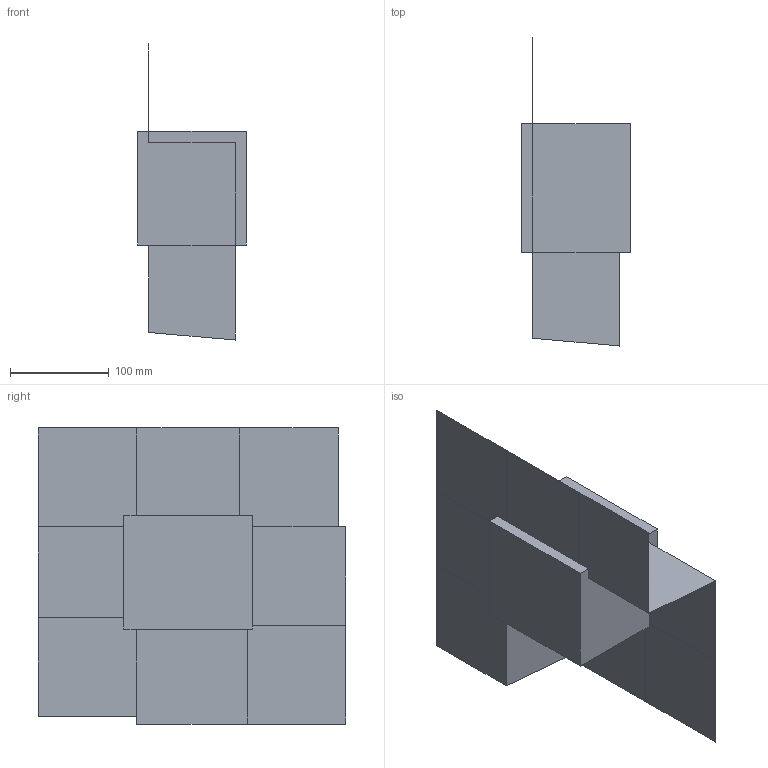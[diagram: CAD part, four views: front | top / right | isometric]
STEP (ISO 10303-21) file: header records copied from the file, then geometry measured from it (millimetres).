
FILE_DESCRIPTION(('CATIA V5 STEP Exchange'),'2;1');
FILE_NAME('C:\_Andres\UNIVERSIDAD\IQS\ASIGNATURAS\DAO\EXF\EXF-15161c\1original\Purroy_Trillo_Ej02-moldes_v20.stp','2016-03-04T15:45:42+00:00',('none'),('none'),'CATIA Version 5 Release 20 SP 1 (IN-10)','CATIA V5 STEP AP203','none');
FILE_SCHEMA(('CONFIG_CONTROL_DESIGN'));
Length unit declared in the file: millimetre
Products named in the file (1): Purroy_Trillo_Ej02-moldes_v20
Bounding box: 110 x 311.7 x 299.7 mm (x, y, z)
Volume: 3482669.1 mm3; surface area: 378873.2 mm2
Topology: 3 solids, 7 shells, 45 faces, 118 edges, 83 vertices
Faces by surface type: plane 41, cylinder 4
Entity records: 1101 total; most frequent: ORIENTED_EDGE 198, CARTESIAN_POINT 179, DIRECTION 147, EDGE_CURVE 83, VECTOR 73, LINE 73, VERTEX_POINT 56, EDGE_LOOP 49
